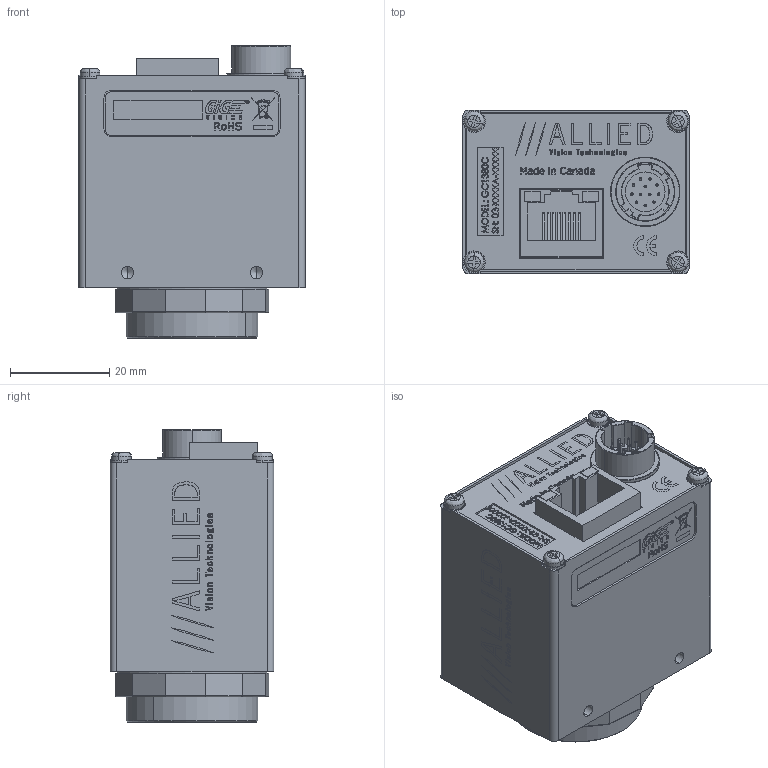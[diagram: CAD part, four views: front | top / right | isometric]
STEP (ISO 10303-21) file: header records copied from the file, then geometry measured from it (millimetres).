
FILE_DESCRIPTION (( 'STEP AP214' ), '1' );
FILE_NAME ('GC1380C.STEP', '2013-07-31T19:11:18', ( '' ), ( '' ), 'SwSTEP 2.0', 'SolidWorks 2013', '' );
FILE_SCHEMA (( 'AUTOMOTIVE_DESIGN' ));
Length unit declared in the file: millimetre
Products named in the file (22): 740032B-GC MAIN LABEL; 110045B-EC-CCD DUST SHIELD GASKET; 100097A-IR FILTER ASSEMBLY 0.75 INCH; 440002-IR CUT FILTER 22MM DIA; 110054AB-IR FILTER SUPPORT; 140023-SCREW SKT CAP M2x10 SS; 220054-SONY ICX285AQ; Sony ICX285 WINDOW; Sony ICX285 BODY; 740123A-GC MAC LABEL; 140017-SCREW PAN M2x4 SS; 200047A-A GC INTERFACE PCB ASSY; 260033-AMPHENOL RJHS-3381; 740034A-A GC1380C LABEL PRINT; 140013-washer spring lock M2; 110031A-B EC-CCD LOCKING RING; 260034-HIROSE HR10A-10R-12PB; 110042C GC-CCD FRONT_Finished with logo; 110043A GC BACK PLATE; 110043A GC BACK PLATE - WO HW; GC1380C; 110003AC-CV CMOUNT RING
Assembly tree (30 placements, depth 3):
  GC1380C
    110042C GC-CCD FRONT_Finished with logo
    110031A-B EC-CCD LOCKING RING
    140013-washer spring lock M2  x6
    740034A-A GC1380C LABEL PRINT
    200047A-A GC INTERFACE PCB ASSY
      260033-AMPHENOL RJHS-3381
    140017-SCREW PAN M2x4 SS  x4
    740123A-GC MAC LABEL
    220054-SONY ICX285AQ
      Sony ICX285 BODY
      Sony ICX285 WINDOW
    140023-SCREW SKT CAP M2x10 SS  x2
    100097A-IR FILTER ASSEMBLY 0.75 INCH
      110054AB-IR FILTER SUPPORT
      440002-IR CUT FILTER 22MM DIA
    110045B-EC-CCD DUST SHIELD GASKET
    740032B-GC MAIN LABEL
    110003AC-CV CMOUNT RING
    110043A GC BACK PLATE
      110043A GC BACK PLATE - WO HW
    260034-HIROSE HR10A-10R-12PB
Bounding box: 45.72 x 33.02 x 59.01 mm (x, y, z)
Volume: 24127.4 mm3; surface area: 35252.6 mm2
Topology: 26 solids, 26 shells, 3282 faces, 8628 edges, 5610 vertices
Faces by surface type: plane 1869, bspline 910, cylinder 309, cone 194
Entity records: 164219 total; most frequent: CARTESIAN_POINT 56901, ORIENTED_EDGE 16432, DIRECTION 11748, EDGE_CURVE 8216, LINE 5656, VECTOR 5656, VERTEX_POINT 5392, EDGE_LOOP 3486
